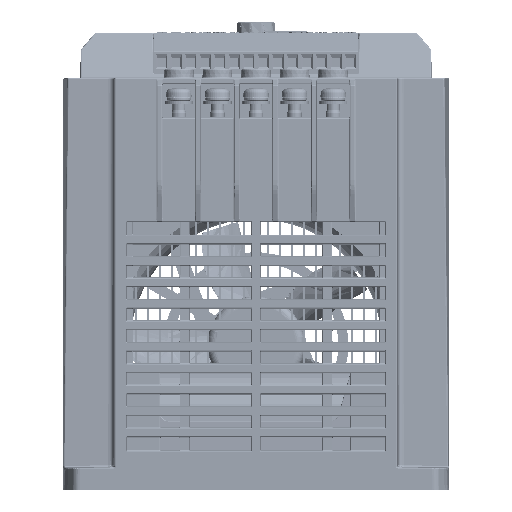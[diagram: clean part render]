
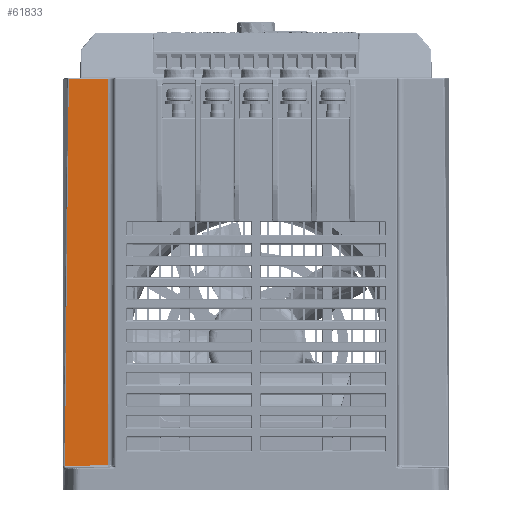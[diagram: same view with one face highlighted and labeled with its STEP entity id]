
A CAD part, front view. The second image highlights one B-rep face of the part: STEP entity #61833.
In plain terms, the highlighted planar face has unit normal (-0.018, -1, 0).
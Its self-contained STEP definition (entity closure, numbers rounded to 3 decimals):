
#18774=PLANE('',#231011);
#33618=LINE('',#406381,#50566);
#33619=LINE('',#406383,#50567);
#33620=LINE('',#406385,#50568);
#50566=VECTOR('',#277175,1.);
#50567=VECTOR('',#277176,1.);
#50568=VECTOR('',#277177,1.);
#61833=ADVANCED_FACE('',(#74042),#18774,.T.);
#74042=FACE_OUTER_BOUND('',#87179,.T.);
#87179=EDGE_LOOP('',(#143683,#143684,#143685,#143686));
#96253=B_SPLINE_CURVE_WITH_KNOTS('',3,(#406369,#406370,#406371,#406372,
#406373,#406374,#406375,#406376,#406377,#406378),.UNSPECIFIED.,.F.,.F.,
(4,3,3,4),(0.,0.328,0.656,1.),.UNSPECIFIED.);
#143683=ORIENTED_EDGE('',*,*,#205093,.T.);
#143684=ORIENTED_EDGE('',*,*,#205094,.T.);
#143685=ORIENTED_EDGE('',*,*,#205095,.T.);
#143686=ORIENTED_EDGE('',*,*,#205096,.T.);
#177394=VERTEX_POINT('',#406379);
#177395=VERTEX_POINT('',#406380);
#177396=VERTEX_POINT('',#406382);
#177397=VERTEX_POINT('',#406384);
#205093=EDGE_CURVE('',#177394,#177395,#96253,.T.);
#205094=EDGE_CURVE('',#177395,#177396,#33618,.T.);
#205095=EDGE_CURVE('',#177396,#177397,#33619,.T.);
#205096=EDGE_CURVE('',#177397,#177394,#33620,.T.);
#231011=AXIS2_PLACEMENT_3D('',#406386,#277178,#277179);
#277175=DIRECTION('',(1.,-0.017,0.012));
#277176=DIRECTION('',(0.,0.,1.));
#277177=DIRECTION('',(-1.,0.017,0.));
#277178=DIRECTION('',(-0.017,-1.,0.));
#277179=DIRECTION('',(1.,-0.017,0.));
#406369=CARTESIAN_POINT('',(130.856,111.086,-17.574));
#406370=CARTESIAN_POINT('',(130.705,111.089,-32.356));
#406371=CARTESIAN_POINT('',(130.554,111.092,-47.138));
#406372=CARTESIAN_POINT('',(130.404,111.094,-61.92));
#406373=CARTESIAN_POINT('',(130.254,111.097,-76.702));
#406374=CARTESIAN_POINT('',(130.105,111.099,-91.484));
#406375=CARTESIAN_POINT('',(129.958,111.102,-106.266));
#406376=CARTESIAN_POINT('',(129.803,111.105,-121.779));
#406377=CARTESIAN_POINT('',(129.65,111.107,-137.292));
#406378=CARTESIAN_POINT('',(129.502,111.11,-152.804));
#406379=CARTESIAN_POINT('',(130.856,111.086,-17.574));
#406380=CARTESIAN_POINT('',(129.502,111.11,-152.804));
#406381=CARTESIAN_POINT('',(146.614,110.811,-152.597));
#406382=CARTESIAN_POINT('',(144.691,110.845,-152.62));
#406383=CARTESIAN_POINT('',(144.691,110.845,-17.074));
#406384=CARTESIAN_POINT('',(144.691,110.845,-17.574));
#406385=CARTESIAN_POINT('',(146.623,110.811,-17.574));
#406386=CARTESIAN_POINT('',(146.623,110.811,-153.274));
